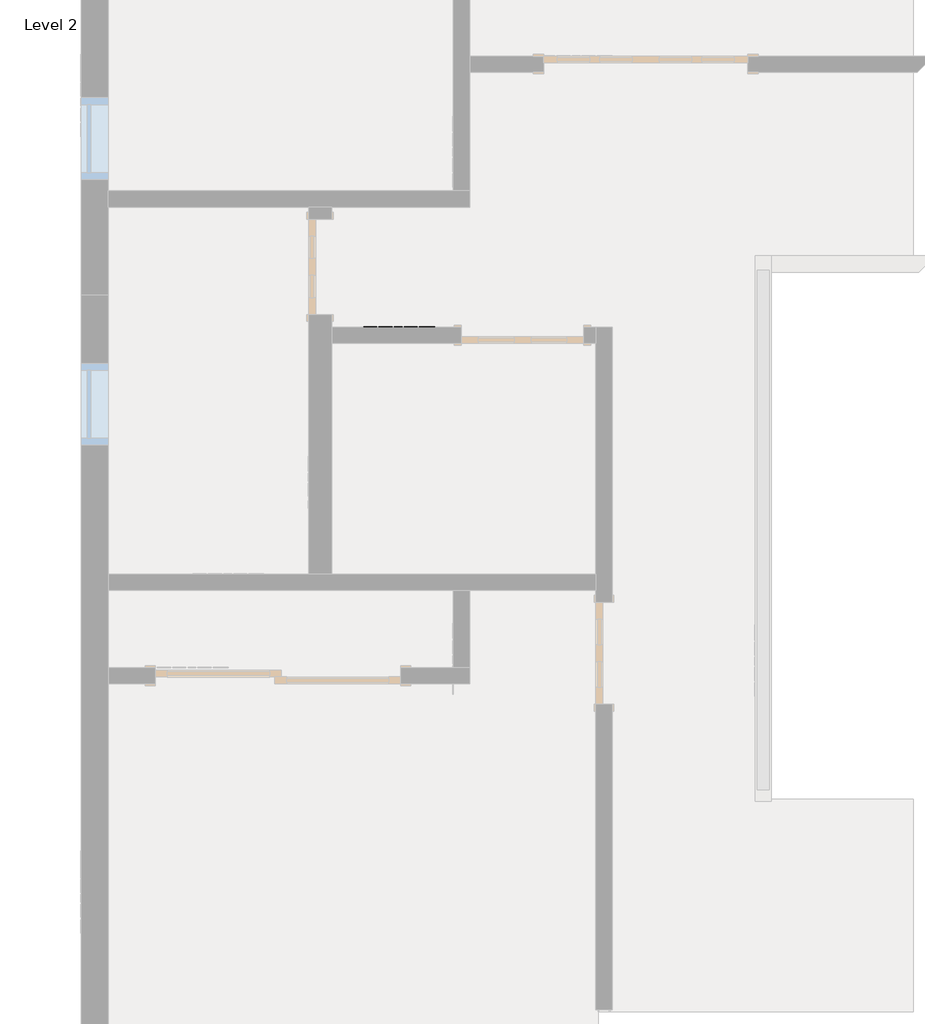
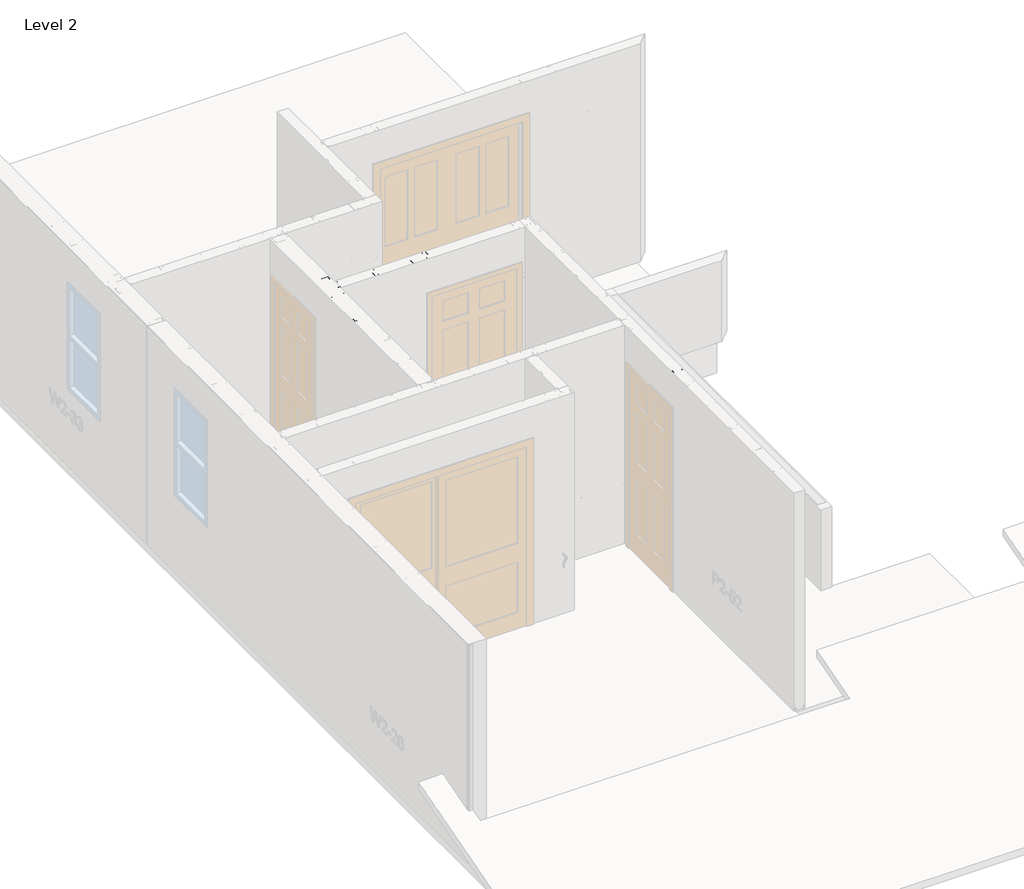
# One storey, part 12 of 46: 8 columns, 1 beam, 1 fastener.
"""IFC4 building model written with IfcOpenShell, lengths in millimetres."""

from ifc_helpers import new_model, si_unit, point, frame, origin, place, context, project, spatial, circle_curve, ellipse_curve, trimmed, transform, mapped, element, save
from ifc_brep_helpers import plane_surface, extruded_surface, advanced_brep
from components import beam_350nf150_33_666b6313, column_350nf150_33_a93e9d8a, panellabel_fa982ee3

model = new_model("IFC4")

# Units and contexts
model_context = context("Model", 3, world=origin())
ifc_project = project(units=[si_unit("LENGTHUNIT", "METRE", prefix="MILLI")], contexts=[model_context])

# Site, building, storey
site = spatial("IfcSite", under=ifc_project)
building = spatial("IfcBuilding", under=site)
storey = spatial("IfcBuildingStorey", under=building, Name="Level 2", Elevation=3060.7)

# Beam
placement = place(None, origin())
beam_350nf150_33_shape = beam_350nf150_33_666b6313(model_context)
element("IfcBeam", 1, ObjectType="BIMSF-SSMA-S : 350NF150-33", at=placement, inside=storey, context=model_context, shape_type="MappedRepresentation", body=[
    mapped(beam_350nf150_33_shape, transform((-12966.0350849, 7610.602221, 3076.575), x_axis=(1.0000000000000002, 0.0, 0.0), y_axis=(0.0, 0.0, -1.0000000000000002), z_axis=(0.0, 1.0000000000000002, 0.0))),
])

# Columns
element("IfcColumn", 2, ObjectType="BIMSF-SSMA-S-Column : 350NF150-33", at=placement, inside=storey, context=model_context, shape_type="AdvancedBrep", body=[
    advanced_brep(
    [(-13457.3663349, 7566.152221, 3061.5929687), (-13457.3663349, 7655.052221, 3061.5929687), (-13419.2663349, 7655.052221, 3061.5929687), (-13419.2663349, 7649.3947052, 3061.5929687), (-13420.1486507, 7649.3947052, 3061.5929687), (-13420.1486507, 7654.1699052, 3061.5929687), (-13456.4840191, 7654.1699052, 3061.5929687), (-13456.4840191, 7567.0345367, 3061.5929687), (-13420.1486507, 7567.0345367, 3061.5929687), (-13420.1486507, 7571.8097367, 3061.5929687), (-13419.2663349, 7571.8097367, 3061.5929687), (-13419.2663349, 7566.152221, 3061.5929687), (-13457.3663349, 7566.152221, 5523.6070313), (-13457.3663349, 7655.052221, 5523.6070313), (-13457.3663349, 7623.302221, 3671.1929688), (-13457.3663349, 7597.902221, 3671.1929688), (-13457.3663349, 7623.302221, 4890.3929687), (-13457.3663349, 7597.902221, 4890.3929687), (-13419.2663349, 7655.052221, 5523.6070313), (-13419.2663349, 7649.3947052, 5523.6070313), (-13420.1486507, 7649.3947052, 5523.6070313), (-13420.1486507, 7654.1699052, 5523.6070313), (-13456.4840191, 7654.1699052, 5523.6070313), (-13456.4840191, 7567.0345367, 5523.6070313), (-13456.4840191, 7597.902221, 3671.1929688), (-13456.4840191, 7623.302221, 3671.1929688), (-13456.4840191, 7597.902221, 4890.3929687), (-13456.4840191, 7623.302221, 4890.3929687), (-13420.1486507, 7567.0345367, 5523.6070313), (-13420.1486507, 7571.8097367, 5523.6070313), (-13419.2663349, 7571.8097367, 5523.6070313), (-13419.2663349, 7566.152221, 5523.6070313)],
    [
        (0, 1),
        (1, 2),
        (2, 3),
        (3, 4),
        (4, 5),
        (5, 6),
        (6, 7),
        (7, 8),
        (8, 9),
        (9, 10),
        (10, 11),
        (11, 0),
        (0, 12),
        (12, 13),
        (13, 1),
        (14, 15, circle_curve(frame((-13457.3663349, 7610.602221, 3671.1929687), z_axis=(1.0, 0.0, 0.0), x_axis=(0.0, 1.0, 0.0)), 12.7)),
        (15, 14, circle_curve(frame((-13457.3663349, 7610.602221, 3671.1929687), z_axis=(1.0, 0.0, 0.0), x_axis=(0.0, 1.0, 0.0)), 12.7)),
        (16, 17, circle_curve(frame((-13457.3663349, 7610.602221, 4890.3929687), z_axis=(1.0, 0.0, 0.0), x_axis=(0.0, 1.0, 0.0)), 12.7)),
        (17, 16, circle_curve(frame((-13457.3663349, 7610.602221, 4890.3929687), z_axis=(1.0, 0.0, 0.0), x_axis=(0.0, 1.0, 0.0)), 12.7)),
        (13, 18),
        (18, 2),
        (18, 19),
        (19, 3),
        (19, 20),
        (20, 4),
        (20, 21),
        (21, 5),
        (21, 22),
        (22, 6),
        (22, 23),
        (23, 7),
        (24, 25, circle_curve(frame((-13456.4840191, 7610.602221, 3671.1929688), z_axis=(-1.0, 0.0, 0.0), x_axis=(0.0, 1.0, 0.0)), 12.7)),
        (25, 24, circle_curve(frame((-13456.4840191, 7610.602221, 3671.1929688), z_axis=(-1.0, 0.0, 0.0), x_axis=(0.0, 1.0, 0.0)), 12.7)),
        (26, 27, circle_curve(frame((-13456.4840191, 7610.602221, 4890.3929687), z_axis=(-1.0, 0.0, 0.0), x_axis=(0.0, 1.0, 0.0)), 12.7)),
        (27, 26, circle_curve(frame((-13456.4840191, 7610.602221, 4890.3929687), z_axis=(-1.0, 0.0, 0.0), x_axis=(0.0, 1.0, 0.0)), 12.7)),
        (23, 28),
        (28, 8),
        (28, 29),
        (29, 9),
        (29, 30),
        (30, 10),
        (30, 31),
        (31, 11),
        (31, 12),
        (24, 15),
        (14, 25),
        (26, 17),
        (16, 27),
    ],
    [
        plane_surface(frame((-13457.3663349, 7566.152221, 3061.5929687), z_axis=(0.0, 0.0, -1.0), x_axis=(-1.0, 0.0, 0.0))),
        plane_surface(frame((-13457.3663349, 7655.052221, 5523.6070313), z_axis=(-1.0, 0.0, 0.0), x_axis=(0.0, 0.0, -1.0))),
        plane_surface(frame((-13419.2663349, 7655.052221, 5523.6070313), z_axis=(0.0, 1.0, 0.0), x_axis=(0.0, 0.0, -1.0))),
        plane_surface(frame((-13419.2663349, 7649.3947052, 5523.6070313), z_axis=(1.0, 0.0, 0.0), x_axis=(0.0, 0.0, -1.0))),
        plane_surface(frame((-13420.1486507, 7649.3947052, 5523.6070313), z_axis=(0.0, -1.0, 0.0), x_axis=(0.0, 0.0, -1.0))),
        plane_surface(frame((-13420.1486507, 7654.1699052, 5523.6070313), z_axis=(-1.0, 0.0, 0.0), x_axis=(0.0, 0.0, -1.0))),
        plane_surface(frame((-13456.4840191, 7654.1699052, 5523.6070313), z_axis=(0.0, -1.0, 0.0), x_axis=(0.0, 0.0, -1.0))),
        plane_surface(frame((-13456.4840191, 7567.0345367, 5523.6070313), z_axis=(1.0, 0.0, 0.0), x_axis=(0.0, 0.0, -1.0))),
        plane_surface(frame((-13420.1486507, 7567.0345367, 5523.6070313), z_axis=(0.0, 1.0, 0.0), x_axis=(0.0, 0.0, -1.0))),
        plane_surface(frame((-13420.1486507, 7571.8097367, 5523.6070313), z_axis=(-1.0, 0.0, 0.0), x_axis=(0.0, 0.0, -1.0))),
        plane_surface(frame((-13419.2663349, 7571.8097367, 5523.6070313), z_axis=(0.0, 1.0, 0.0), x_axis=(0.0, 0.0, -1.0))),
        plane_surface(frame((-13419.2663349, 7566.152221, 5523.6070313), z_axis=(1.0, 0.0, 0.0), x_axis=(0.0, 0.0, -1.0))),
        plane_surface(frame((-13457.3663349, 7566.152221, 5523.6070313), z_axis=(0.0, -1.0, 0.0), x_axis=(0.0, 0.0, -1.0))),
        plane_surface(frame((-13457.3663349, 7566.152221, 5523.6070313), z_axis=(0.0, 0.0, 1.0), x_axis=(1.0, 0.0, 0.0))),
        extruded_surface(trimmed(ellipse_curve(frame((-10976.3022724, 7610.602221, 3671.1929688), z_axis=(-1.0, 0.0, 0.0), x_axis=(0.0, 1.0, 0.0)), 12.7, 12.7), [point((-10976.3022724, 7597.902221, 3671.1929688))], [point((-10976.3022724, 7623.302221, 3671.1929688))], True, "CARTESIAN"), (4924.028125, 0.0, 0.0), 4924.028125),
        extruded_surface(trimmed(ellipse_curve(frame((-10976.3022724, 7610.602221, 3671.1929688), z_axis=(-1.0, 0.0, 0.0), x_axis=(0.0, 1.0, 0.0)), 12.7, 12.7), [point((-10976.3022724, 7623.302221, 3671.1929688))], [point((-10976.3022724, 7597.902221, 3671.1929688))], True, "CARTESIAN"), (4924.028125, 0.0, 0.0), 4924.028125),
        extruded_surface(trimmed(ellipse_curve(frame((-10976.3022724, 7610.602221, 4890.3929687), z_axis=(-1.0, 0.0, 0.0), x_axis=(0.0, 1.0, 0.0)), 12.7, 12.7), [point((-10976.3022724, 7597.902221, 4890.3929687))], [point((-10976.3022724, 7623.302221, 4890.3929687))], True, "CARTESIAN"), (4924.028125, 0.0, 0.0), 4924.028125),
        extruded_surface(trimmed(ellipse_curve(frame((-10976.3022724, 7610.602221, 4890.3929687), z_axis=(-1.0, 0.0, 0.0), x_axis=(0.0, 1.0, 0.0)), 12.7, 12.7), [point((-10976.3022724, 7623.302221, 4890.3929687))], [point((-10976.3022724, 7597.902221, 4890.3929687))], True, "CARTESIAN"), (4924.028125, 0.0, 0.0), 4924.028125),
    ],
    [
        (0, [[1, 2, 3, 4, 5, 6, 7, 8, 9, 10, 11, 12]]),
        (1, [[-1, 13, 14, 15], [16, 17], [18, 19]]),
        (2, [[-2, -15, 20, 21]]),
        (3, [[-3, -21, 22, 23]]),
        (4, [[-4, -23, 24, 25]]),
        (5, [[-5, -25, 26, 27]]),
        (6, [[-6, -27, 28, 29]]),
        (7, [[-7, -29, 30, 31], [32, 33], [34, 35]]),
        (8, [[-8, -31, 36, 37]]),
        (9, [[-9, -37, 38, 39]]),
        (10, [[-10, -39, 40, 41]]),
        (11, [[-11, -41, 42, 43]]),
        (12, [[-12, -43, 44, -13]]),
        (13, [[-14, -44, -42, -40, -38, -36, -30, -28, -26, -24, -22, -20]]),
        (14, [[45, -16, 46, -32]]),
        (15, [[-45, -33, -46, -17]]),
        (16, [[47, -18, 48, -34]]),
        (17, [[-47, -35, -48, -19]]),
    ],
),
])
element("IfcColumn", 3, ObjectType="BIMSF-SSMA-S-Column : 350NF150-33", at=placement, inside=storey, context=model_context, shape_type="AdvancedBrep", body=[
    advanced_brep(
    [(-13070.0163349, 7566.152221, 3061.5929687), (-13070.0163349, 7655.052221, 3061.5929687), (-13031.9163349, 7655.052221, 3061.5929687), (-13031.9163349, 7649.3947052, 3061.5929687), (-13032.7986507, 7649.3947052, 3061.5929687), (-13032.7986507, 7654.1699052, 3061.5929687), (-13069.1340191, 7654.1699052, 3061.5929687), (-13069.1340191, 7567.0345367, 3061.5929687), (-13032.7986507, 7567.0345367, 3061.5929687), (-13032.7986507, 7571.8097367, 3061.5929687), (-13031.9163349, 7571.8097367, 3061.5929687), (-13031.9163349, 7566.152221, 3061.5929687), (-13070.0163349, 7566.152221, 5523.6070313), (-13070.0163349, 7655.052221, 5523.6070313), (-13070.0163349, 7623.302221, 3671.1929688), (-13070.0163349, 7597.902221, 3671.1929688), (-13070.0163349, 7623.302221, 4890.3929687), (-13070.0163349, 7597.902221, 4890.3929687), (-13031.9163349, 7655.052221, 5523.6070313), (-13031.9163349, 7649.3947052, 5523.6070313), (-13032.7986507, 7649.3947052, 5523.6070313), (-13032.7986507, 7654.1699052, 5523.6070313), (-13069.1340191, 7654.1699052, 5523.6070313), (-13069.1340191, 7567.0345367, 5523.6070313), (-13069.1340191, 7597.902221, 3671.1929688), (-13069.1340191, 7623.302221, 3671.1929688), (-13069.1340191, 7597.902221, 4890.3929687), (-13069.1340191, 7623.302221, 4890.3929687), (-13032.7986507, 7567.0345367, 5523.6070313), (-13032.7986507, 7571.8097367, 5523.6070313), (-13031.9163349, 7571.8097367, 5523.6070313), (-13031.9163349, 7566.152221, 5523.6070313)],
    [
        (0, 1),
        (1, 2),
        (2, 3),
        (3, 4),
        (4, 5),
        (5, 6),
        (6, 7),
        (7, 8),
        (8, 9),
        (9, 10),
        (10, 11),
        (11, 0),
        (0, 12),
        (12, 13),
        (13, 1),
        (14, 15, circle_curve(frame((-13070.0163349, 7610.602221, 3671.1929688), z_axis=(1.0, 0.0, 0.0), x_axis=(0.0, 1.0, 0.0)), 12.7)),
        (15, 14, circle_curve(frame((-13070.0163349, 7610.602221, 3671.1929688), z_axis=(1.0, 0.0, 0.0), x_axis=(0.0, 1.0, 0.0)), 12.7)),
        (16, 17, circle_curve(frame((-13070.0163349, 7610.602221, 4890.3929687), z_axis=(1.0, 0.0, 0.0), x_axis=(0.0, 1.0, 0.0)), 12.7)),
        (17, 16, circle_curve(frame((-13070.0163349, 7610.602221, 4890.3929687), z_axis=(1.0, 0.0, 0.0), x_axis=(0.0, 1.0, 0.0)), 12.7)),
        (13, 18),
        (18, 2),
        (18, 19),
        (19, 3),
        (19, 20),
        (20, 4),
        (20, 21),
        (21, 5),
        (21, 22),
        (22, 6),
        (22, 23),
        (23, 7),
        (24, 25, circle_curve(frame((-13069.1340191, 7610.602221, 3671.1929688), z_axis=(-1.0, 0.0, 0.0), x_axis=(0.0, 1.0, 0.0)), 12.7)),
        (25, 24, circle_curve(frame((-13069.1340191, 7610.602221, 3671.1929688), z_axis=(-1.0, 0.0, 0.0), x_axis=(0.0, 1.0, 0.0)), 12.7)),
        (26, 27, circle_curve(frame((-13069.1340191, 7610.602221, 4890.3929687), z_axis=(-1.0, 0.0, 0.0), x_axis=(0.0, 1.0, 0.0)), 12.7)),
        (27, 26, circle_curve(frame((-13069.1340191, 7610.602221, 4890.3929687), z_axis=(-1.0, 0.0, 0.0), x_axis=(0.0, 1.0, 0.0)), 12.7)),
        (23, 28),
        (28, 8),
        (28, 29),
        (29, 9),
        (29, 30),
        (30, 10),
        (30, 31),
        (31, 11),
        (31, 12),
        (24, 15),
        (14, 25),
        (26, 17),
        (16, 27),
    ],
    [
        plane_surface(frame((-13070.0163349, 7566.152221, 3061.5929687), z_axis=(0.0, 0.0, -1.0), x_axis=(-1.0, 0.0, 0.0))),
        plane_surface(frame((-13070.0163349, 7655.052221, 5523.6070313), z_axis=(-1.0, 0.0, 0.0), x_axis=(0.0, 0.0, -1.0))),
        plane_surface(frame((-13031.9163349, 7655.052221, 5523.6070313), z_axis=(0.0, 1.0, 0.0), x_axis=(0.0, 0.0, -1.0))),
        plane_surface(frame((-13031.9163349, 7649.3947052, 5523.6070313), z_axis=(1.0, 0.0, 0.0), x_axis=(0.0, 0.0, -1.0))),
        plane_surface(frame((-13032.7986507, 7649.3947052, 5523.6070313), z_axis=(0.0, -1.0, 0.0), x_axis=(0.0, 0.0, -1.0))),
        plane_surface(frame((-13032.7986507, 7654.1699052, 5523.6070313), z_axis=(-1.0, 0.0, 0.0), x_axis=(0.0, 0.0, -1.0))),
        plane_surface(frame((-13069.1340191, 7654.1699052, 5523.6070313), z_axis=(0.0, -1.0, 0.0), x_axis=(0.0, 0.0, -1.0))),
        plane_surface(frame((-13069.1340191, 7567.0345367, 5523.6070313), z_axis=(1.0, 0.0, 0.0), x_axis=(0.0, 0.0, -1.0))),
        plane_surface(frame((-13032.7986507, 7567.0345367, 5523.6070313), z_axis=(0.0, 1.0, 0.0), x_axis=(0.0, 0.0, -1.0))),
        plane_surface(frame((-13032.7986507, 7571.8097367, 5523.6070313), z_axis=(-1.0, 0.0, 0.0), x_axis=(0.0, 0.0, -1.0))),
        plane_surface(frame((-13031.9163349, 7571.8097367, 5523.6070313), z_axis=(0.0, 1.0, 0.0), x_axis=(0.0, 0.0, -1.0))),
        plane_surface(frame((-13031.9163349, 7566.152221, 5523.6070313), z_axis=(1.0, 0.0, 0.0), x_axis=(0.0, 0.0, -1.0))),
        plane_surface(frame((-13070.0163349, 7566.152221, 5523.6070313), z_axis=(0.0, -1.0, 0.0), x_axis=(0.0, 0.0, -1.0))),
        plane_surface(frame((-13070.0163349, 7566.152221, 5523.6070313), z_axis=(0.0, 0.0, 1.0), x_axis=(1.0, 0.0, 0.0))),
        extruded_surface(trimmed(ellipse_curve(frame((-10588.9522724, 7610.602221, 3671.1929688), z_axis=(-1.0, 0.0, 0.0), x_axis=(0.0, 1.0, 0.0)), 12.7, 12.7), [point((-10588.9522724, 7597.902221, 3671.1929688))], [point((-10588.9522724, 7623.302221, 3671.1929688))], True, "CARTESIAN"), (4924.028125, 0.0, 0.0), 4924.028125),
        extruded_surface(trimmed(ellipse_curve(frame((-10588.9522724, 7610.602221, 3671.1929688), z_axis=(-1.0, 0.0, 0.0), x_axis=(0.0, 1.0, 0.0)), 12.7, 12.7), [point((-10588.9522724, 7623.302221, 3671.1929688))], [point((-10588.9522724, 7597.902221, 3671.1929688))], True, "CARTESIAN"), (4924.028125, 0.0, 0.0), 4924.028125),
        extruded_surface(trimmed(ellipse_curve(frame((-10588.9522724, 7610.602221, 4890.3929687), z_axis=(-1.0, 0.0, 0.0), x_axis=(0.0, 1.0, 0.0)), 12.7, 12.7), [point((-10588.9522724, 7597.902221, 4890.3929687))], [point((-10588.9522724, 7623.302221, 4890.3929687))], True, "CARTESIAN"), (4924.028125, 0.0, 0.0), 4924.028125),
        extruded_surface(trimmed(ellipse_curve(frame((-10588.9522724, 7610.602221, 4890.3929687), z_axis=(-1.0, 0.0, 0.0), x_axis=(0.0, 1.0, 0.0)), 12.7, 12.7), [point((-10588.9522724, 7623.302221, 4890.3929687))], [point((-10588.9522724, 7597.902221, 4890.3929687))], True, "CARTESIAN"), (4924.028125, 0.0, 0.0), 4924.028125),
    ],
    [
        (0, [[1, 2, 3, 4, 5, 6, 7, 8, 9, 10, 11, 12]]),
        (1, [[-1, 13, 14, 15], [16, 17], [18, 19]]),
        (2, [[-2, -15, 20, 21]]),
        (3, [[-3, -21, 22, 23]]),
        (4, [[-4, -23, 24, 25]]),
        (5, [[-5, -25, 26, 27]]),
        (6, [[-6, -27, 28, 29]]),
        (7, [[-7, -29, 30, 31], [32, 33], [34, 35]]),
        (8, [[-8, -31, 36, 37]]),
        (9, [[-9, -37, 38, 39]]),
        (10, [[-10, -39, 40, 41]]),
        (11, [[-11, -41, 42, 43]]),
        (12, [[-12, -43, 44, -13]]),
        (13, [[-14, -44, -42, -40, -38, -36, -30, -28, -26, -24, -22, -20]]),
        (14, [[45, -16, 46, -32]]),
        (15, [[-45, -33, -46, -17]]),
        (16, [[47, -18, 48, -34]]),
        (17, [[-47, -35, -48, -19]]),
    ],
),
])
element("IfcColumn", 4, ObjectType="BIMSF-SSMA-S-Column : 350NF150-33", at=placement, inside=storey, context=model_context, shape_type="AdvancedBrep", body=[
    advanced_brep(
    [(-12663.6163349, 7566.152221, 3061.5929687), (-12663.6163349, 7655.052221, 3061.5929687), (-12625.5163349, 7655.052221, 3061.5929687), (-12625.5163349, 7649.3947052, 3061.5929687), (-12626.3986507, 7649.3947052, 3061.5929687), (-12626.3986507, 7654.1699052, 3061.5929687), (-12662.7340191, 7654.1699052, 3061.5929687), (-12662.7340191, 7567.0345367, 3061.5929687), (-12626.3986507, 7567.0345367, 3061.5929687), (-12626.3986507, 7571.8097367, 3061.5929687), (-12625.5163349, 7571.8097367, 3061.5929687), (-12625.5163349, 7566.152221, 3061.5929687), (-12663.6163349, 7566.152221, 5523.6070313), (-12663.6163349, 7655.052221, 5523.6070313), (-12663.6163349, 7623.302221, 3671.1929688), (-12663.6163349, 7597.902221, 3671.1929688), (-12663.6163349, 7623.302221, 4890.3929687), (-12663.6163349, 7597.902221, 4890.3929687), (-12625.5163349, 7655.052221, 5523.6070313), (-12625.5163349, 7649.3947052, 5523.6070313), (-12626.3986507, 7649.3947052, 5523.6070313), (-12626.3986507, 7654.1699052, 5523.6070313), (-12662.7340191, 7654.1699052, 5523.6070313), (-12662.7340191, 7567.0345367, 5523.6070313), (-12662.7340191, 7597.902221, 3671.1929688), (-12662.7340191, 7623.302221, 3671.1929688), (-12662.7340191, 7597.902221, 4890.3929687), (-12662.7340191, 7623.302221, 4890.3929687), (-12626.3986507, 7567.0345367, 5523.6070313), (-12626.3986507, 7571.8097367, 5523.6070313), (-12625.5163349, 7571.8097367, 5523.6070313), (-12625.5163349, 7566.152221, 5523.6070313)],
    [
        (0, 1),
        (1, 2),
        (2, 3),
        (3, 4),
        (4, 5),
        (5, 6),
        (6, 7),
        (7, 8),
        (8, 9),
        (9, 10),
        (10, 11),
        (11, 0),
        (0, 12),
        (12, 13),
        (13, 1),
        (14, 15, circle_curve(frame((-12663.6163349, 7610.602221, 3671.1929688), z_axis=(1.0, 0.0, 0.0), x_axis=(0.0, 1.0, 0.0)), 12.7)),
        (15, 14, circle_curve(frame((-12663.6163349, 7610.602221, 3671.1929688), z_axis=(1.0, 0.0, 0.0), x_axis=(0.0, 1.0, 0.0)), 12.7)),
        (16, 17, circle_curve(frame((-12663.6163349, 7610.602221, 4890.3929687), z_axis=(1.0, 0.0, 0.0), x_axis=(0.0, 1.0, 0.0)), 12.7)),
        (17, 16, circle_curve(frame((-12663.6163349, 7610.602221, 4890.3929687), z_axis=(1.0, 0.0, 0.0), x_axis=(0.0, 1.0, 0.0)), 12.7)),
        (13, 18),
        (18, 2),
        (18, 19),
        (19, 3),
        (19, 20),
        (20, 4),
        (20, 21),
        (21, 5),
        (21, 22),
        (22, 6),
        (22, 23),
        (23, 7),
        (24, 25, circle_curve(frame((-12662.7340191, 7610.602221, 3671.1929688), z_axis=(-1.0, 0.0, 0.0), x_axis=(0.0, 1.0, 0.0)), 12.7)),
        (25, 24, circle_curve(frame((-12662.7340191, 7610.602221, 3671.1929688), z_axis=(-1.0, 0.0, 0.0), x_axis=(0.0, 1.0, 0.0)), 12.7)),
        (26, 27, circle_curve(frame((-12662.7340191, 7610.602221, 4890.3929687), z_axis=(-1.0, 0.0, 0.0), x_axis=(0.0, 1.0, 0.0)), 12.7)),
        (27, 26, circle_curve(frame((-12662.7340191, 7610.602221, 4890.3929687), z_axis=(-1.0, 0.0, 0.0), x_axis=(0.0, 1.0, 0.0)), 12.7)),
        (23, 28),
        (28, 8),
        (28, 29),
        (29, 9),
        (29, 30),
        (30, 10),
        (30, 31),
        (31, 11),
        (31, 12),
        (24, 15),
        (14, 25),
        (26, 17),
        (16, 27),
    ],
    [
        plane_surface(frame((-12663.6163349, 7566.152221, 3061.5929687), z_axis=(0.0, 0.0, -1.0), x_axis=(-1.0, 0.0, 0.0))),
        plane_surface(frame((-12663.6163349, 7655.052221, 5523.6070313), z_axis=(-1.0, 0.0, 0.0), x_axis=(0.0, 0.0, -1.0))),
        plane_surface(frame((-12625.5163349, 7655.052221, 5523.6070313), z_axis=(0.0, 1.0, 0.0), x_axis=(0.0, 0.0, -1.0))),
        plane_surface(frame((-12625.5163349, 7649.3947052, 5523.6070313), z_axis=(1.0, 0.0, 0.0), x_axis=(0.0, 0.0, -1.0))),
        plane_surface(frame((-12626.3986507, 7649.3947052, 5523.6070313), z_axis=(0.0, -1.0, 0.0), x_axis=(0.0, 0.0, -1.0))),
        plane_surface(frame((-12626.3986507, 7654.1699052, 5523.6070313), z_axis=(-1.0, 0.0, 0.0), x_axis=(0.0, 0.0, -1.0))),
        plane_surface(frame((-12662.7340191, 7654.1699052, 5523.6070313), z_axis=(0.0, -1.0, 0.0), x_axis=(0.0, 0.0, -1.0))),
        plane_surface(frame((-12662.7340191, 7567.0345367, 5523.6070313), z_axis=(1.0, 0.0, 0.0), x_axis=(0.0, 0.0, -1.0))),
        plane_surface(frame((-12626.3986507, 7567.0345367, 5523.6070313), z_axis=(0.0, 1.0, 0.0), x_axis=(0.0, 0.0, -1.0))),
        plane_surface(frame((-12626.3986507, 7571.8097367, 5523.6070313), z_axis=(-1.0, 0.0, 0.0), x_axis=(0.0, 0.0, -1.0))),
        plane_surface(frame((-12625.5163349, 7571.8097367, 5523.6070313), z_axis=(0.0, 1.0, 0.0), x_axis=(0.0, 0.0, -1.0))),
        plane_surface(frame((-12625.5163349, 7566.152221, 5523.6070313), z_axis=(1.0, 0.0, 0.0), x_axis=(0.0, 0.0, -1.0))),
        plane_surface(frame((-12663.6163349, 7566.152221, 5523.6070313), z_axis=(0.0, -1.0, 0.0), x_axis=(0.0, 0.0, -1.0))),
        plane_surface(frame((-12663.6163349, 7566.152221, 5523.6070313), z_axis=(0.0, 0.0, 1.0), x_axis=(1.0, 0.0, 0.0))),
        extruded_surface(trimmed(ellipse_curve(frame((-10182.5522724, 7610.602221, 3671.1929688), z_axis=(-1.0, 0.0, 0.0), x_axis=(0.0, 1.0, 0.0)), 12.7, 12.7), [point((-10182.5522724, 7597.902221, 3671.1929688))], [point((-10182.5522724, 7623.302221, 3671.1929688))], True, "CARTESIAN"), (4924.028125, 0.0, 0.0), 4924.028125),
        extruded_surface(trimmed(ellipse_curve(frame((-10182.5522724, 7610.602221, 3671.1929688), z_axis=(-1.0, 0.0, 0.0), x_axis=(0.0, 1.0, 0.0)), 12.7, 12.7), [point((-10182.5522724, 7623.302221, 3671.1929688))], [point((-10182.5522724, 7597.902221, 3671.1929688))], True, "CARTESIAN"), (4924.028125, 0.0, 0.0), 4924.028125),
        extruded_surface(trimmed(ellipse_curve(frame((-10182.5522724, 7610.602221, 4890.3929687), z_axis=(-1.0, 0.0, 0.0), x_axis=(0.0, 1.0, 0.0)), 12.7, 12.7), [point((-10182.5522724, 7597.902221, 4890.3929687))], [point((-10182.5522724, 7623.302221, 4890.3929687))], True, "CARTESIAN"), (4924.028125, 0.0, 0.0), 4924.028125),
        extruded_surface(trimmed(ellipse_curve(frame((-10182.5522724, 7610.602221, 4890.3929687), z_axis=(-1.0, 0.0, 0.0), x_axis=(0.0, 1.0, 0.0)), 12.7, 12.7), [point((-10182.5522724, 7623.302221, 4890.3929687))], [point((-10182.5522724, 7597.902221, 4890.3929687))], True, "CARTESIAN"), (4924.028125, 0.0, 0.0), 4924.028125),
    ],
    [
        (0, [[1, 2, 3, 4, 5, 6, 7, 8, 9, 10, 11, 12]]),
        (1, [[-1, 13, 14, 15], [16, 17], [18, 19]]),
        (2, [[-2, -15, 20, 21]]),
        (3, [[-3, -21, 22, 23]]),
        (4, [[-4, -23, 24, 25]]),
        (5, [[-5, -25, 26, 27]]),
        (6, [[-6, -27, 28, 29]]),
        (7, [[-7, -29, 30, 31], [32, 33], [34, 35]]),
        (8, [[-8, -31, 36, 37]]),
        (9, [[-9, -37, 38, 39]]),
        (10, [[-10, -39, 40, 41]]),
        (11, [[-11, -41, 42, 43]]),
        (12, [[-12, -43, 44, -13]]),
        (13, [[-14, -44, -42, -40, -38, -36, -30, -28, -26, -24, -22, -20]]),
        (14, [[45, -16, 46, -32]]),
        (15, [[-45, -33, -46, -17]]),
        (16, [[47, -18, 48, -34]]),
        (17, [[-47, -35, -48, -19]]),
    ],
),
])
column_350nf150_33_shape = column_350nf150_33_a93e9d8a(model_context)
element("IfcColumn", 5, ObjectType="BIMSF-SSMA-S-Column : 350NF150-33", at=placement, inside=storey, context=model_context, shape_type="MappedRepresentation", body=[
    mapped(column_350nf150_33_shape, transform((-11398.7542099, 4845.8794332, 0.0), x_axis=(0.0, -1.0, 0.0), y_axis=(1.0, 0.0, 0.0), z_axis=(0.0, 0.0, 1.0))),
])
element("IfcColumn", 6, ObjectType="BIMSF-SSMA-S-Column : 350NF150-33", at=placement, inside=storey, context=model_context, shape_type="MappedRepresentation", body=[
    mapped(column_350nf150_33_shape, transform((-12486.7016226, 7599.865096, 0.0), x_axis=(-1.0, 0.0, 0.0), y_axis=(0.0, -1.0, 0.0), z_axis=(0.0, 0.0, 1.0))),
])
element("IfcColumn", 7, ObjectType="BIMSF-SSMA-S-Column : 550NF150-33", at=placement, inside=storey, context=model_context, shape_type="AdvancedBrep", body=[
    advanced_brep(
    [(-13597.0663349, 7764.589721, 3061.5929687), (-13457.3663349, 7764.589721, 3061.5929687), (-13457.3663349, 7726.489721, 3061.5929687), (-13463.0238507, 7726.489721, 3061.5929687), (-13463.0238507, 7727.3720367, 3061.5929687), (-13458.2486507, 7727.3720367, 3061.5929687), (-13458.2486507, 7763.7074052, 3061.5929687), (-13596.1840191, 7763.7074052, 3061.5929687), (-13596.1840191, 7727.3720367, 3061.5929687), (-13591.4088191, 7727.3720367, 3061.5929687), (-13591.4088191, 7726.489721, 3061.5929687), (-13597.0663349, 7726.489721, 3061.5929687), (-13597.0663349, 7764.589721, 5523.6070313), (-13457.3663349, 7764.589721, 5523.6070313), (-13514.5163349, 7764.589721, 3671.1929688), (-13539.9163349, 7764.589721, 3671.1929688), (-13514.5163349, 7764.589721, 4890.3929687), (-13539.9163349, 7764.589721, 4890.3929687), (-13457.3663349, 7726.489721, 5523.6070313), (-13463.0238507, 7726.489721, 5523.6070313), (-13463.0238507, 7727.3720367, 5523.6070313), (-13458.2486507, 7727.3720367, 5523.6070313), (-13458.2486507, 7763.7074052, 5523.6070313), (-13596.1840191, 7763.7074052, 5523.6070313), (-13539.9163349, 7763.7074052, 3671.1929688), (-13514.5163349, 7763.7074052, 3671.1929688), (-13539.9163349, 7763.7074052, 4890.3929687), (-13514.5163349, 7763.7074052, 4890.3929687), (-13596.1840191, 7727.3720367, 5523.6070313), (-13591.4088191, 7727.3720367, 5523.6070313), (-13591.4088191, 7726.489721, 5523.6070313), (-13597.0663349, 7726.489721, 5523.6070313)],
    [
        (0, 1),
        (1, 2),
        (2, 3),
        (3, 4),
        (4, 5),
        (5, 6),
        (6, 7),
        (7, 8),
        (8, 9),
        (9, 10),
        (10, 11),
        (11, 0),
        (0, 12),
        (12, 13),
        (13, 1),
        (14, 15, circle_curve(frame((-13527.2163349, 7764.589721, 3671.1929688), z_axis=(0.0, -1.0, 0.0), x_axis=(1.0, 0.0, 0.0)), 12.7)),
        (15, 14, circle_curve(frame((-13527.2163349, 7764.589721, 3671.1929688), z_axis=(0.0, -1.0, 0.0), x_axis=(1.0, 0.0, 0.0)), 12.7)),
        (16, 17, circle_curve(frame((-13527.2163349, 7764.589721, 4890.3929687), z_axis=(0.0, -1.0, 0.0), x_axis=(1.0, 0.0, 0.0)), 12.7)),
        (17, 16, circle_curve(frame((-13527.2163349, 7764.589721, 4890.3929687), z_axis=(0.0, -1.0, 0.0), x_axis=(1.0, 0.0, 0.0)), 12.7)),
        (13, 18),
        (18, 2),
        (18, 19),
        (19, 3),
        (19, 20),
        (20, 4),
        (20, 21),
        (21, 5),
        (21, 22),
        (22, 6),
        (22, 23),
        (23, 7),
        (24, 25, circle_curve(frame((-13527.2163349, 7763.7074052, 3671.1929688), z_axis=(0.0, 1.0, 0.0), x_axis=(1.0, 0.0, 0.0)), 12.7)),
        (25, 24, circle_curve(frame((-13527.2163349, 7763.7074052, 3671.1929688), z_axis=(0.0, 1.0, 0.0), x_axis=(1.0, 0.0, 0.0)), 12.7)),
        (26, 27, circle_curve(frame((-13527.2163349, 7763.7074052, 4890.3929687), z_axis=(0.0, 1.0, 0.0), x_axis=(1.0, 0.0, 0.0)), 12.7)),
        (27, 26, circle_curve(frame((-13527.2163349, 7763.7074052, 4890.3929687), z_axis=(0.0, 1.0, 0.0), x_axis=(1.0, 0.0, 0.0)), 12.7)),
        (23, 28),
        (28, 8),
        (28, 29),
        (29, 9),
        (29, 30),
        (30, 10),
        (30, 31),
        (31, 11),
        (31, 12),
        (24, 15),
        (14, 25),
        (26, 17),
        (16, 27),
    ],
    [
        plane_surface(frame((-13597.0663349, 7764.589721, 3061.5929687), z_axis=(0.0, 0.0, -1.0), x_axis=(0.0, 1.0, 0.0))),
        plane_surface(frame((-13457.3663349, 7764.589721, 5523.6070313), z_axis=(0.0, 1.0, 0.0), x_axis=(0.0, 0.0, -1.0))),
        plane_surface(frame((-13457.3663349, 7726.489721, 5523.6070313), z_axis=(1.0, 0.0, 0.0), x_axis=(0.0, 0.0, -1.0))),
        plane_surface(frame((-13463.0238507, 7726.489721, 5523.6070313), z_axis=(0.0, -1.0, 0.0), x_axis=(0.0, 0.0, -1.0))),
        plane_surface(frame((-13463.0238507, 7727.3720367, 5523.6070313), z_axis=(-1.0, 0.0, 0.0), x_axis=(0.0, 0.0, -1.0))),
        plane_surface(frame((-13458.2486507, 7727.3720367, 5523.6070313), z_axis=(0.0, 1.0, 0.0), x_axis=(0.0, 0.0, -1.0))),
        plane_surface(frame((-13458.2486507, 7763.7074052, 5523.6070313), z_axis=(-1.0, 0.0, 0.0), x_axis=(0.0, 0.0, -1.0))),
        plane_surface(frame((-13596.1840191, 7763.7074052, 5523.6070313), z_axis=(0.0, -1.0, 0.0), x_axis=(0.0, 0.0, -1.0))),
        plane_surface(frame((-13596.1840191, 7727.3720367, 5523.6070313), z_axis=(1.0, 0.0, 0.0), x_axis=(0.0, 0.0, -1.0))),
        plane_surface(frame((-13591.4088191, 7727.3720367, 5523.6070313), z_axis=(0.0, 1.0, 0.0), x_axis=(0.0, 0.0, -1.0))),
        plane_surface(frame((-13591.4088191, 7726.489721, 5523.6070313), z_axis=(1.0, 0.0, 0.0), x_axis=(0.0, 0.0, -1.0))),
        plane_surface(frame((-13597.0663349, 7726.489721, 5523.6070313), z_axis=(0.0, -1.0, 0.0), x_axis=(0.0, 0.0, -1.0))),
        plane_surface(frame((-13597.0663349, 7764.589721, 5523.6070313), z_axis=(-1.0, 0.0, 0.0), x_axis=(0.0, 0.0, -1.0))),
        plane_surface(frame((-13597.0663349, 7764.589721, 5523.6070313), z_axis=(0.0, 0.0, 1.0), x_axis=(0.0, -1.0, 0.0))),
        extruded_surface(trimmed(ellipse_curve(frame((-13527.2163349, 5283.5256585, 3671.1929688), z_axis=(0.0, 1.0, 0.0), x_axis=(1.0, 0.0, 0.0)), 12.7, 12.7), [point((-13539.9163349, 5283.5256585, 3671.1929688))], [point((-13514.5163349, 5283.5256585, 3671.1929688))], True, "CARTESIAN"), (0.0, -4924.028125, 0.0), 4924.028125),
        extruded_surface(trimmed(ellipse_curve(frame((-13527.2163349, 5283.5256585, 3671.1929688), z_axis=(0.0, 1.0, 0.0), x_axis=(1.0, 0.0, 0.0)), 12.7, 12.7), [point((-13514.5163349, 5283.5256585, 3671.1929688))], [point((-13539.9163349, 5283.5256585, 3671.1929688))], True, "CARTESIAN"), (0.0, -4924.028125, 0.0), 4924.028125),
        extruded_surface(trimmed(ellipse_curve(frame((-13527.2163349, 5283.5256585, 4890.3929687), z_axis=(0.0, 1.0, 0.0), x_axis=(1.0, 0.0, 0.0)), 12.7, 12.7), [point((-13539.9163349, 5283.5256585, 4890.3929687))], [point((-13514.5163349, 5283.5256585, 4890.3929687))], True, "CARTESIAN"), (0.0, -4924.028125, 0.0), 4924.028125),
        extruded_surface(trimmed(ellipse_curve(frame((-13527.2163349, 5283.5256585, 4890.3929687), z_axis=(0.0, 1.0, 0.0), x_axis=(1.0, 0.0, 0.0)), 12.7, 12.7), [point((-13514.5163349, 5283.5256585, 4890.3929687))], [point((-13539.9163349, 5283.5256585, 4890.3929687))], True, "CARTESIAN"), (0.0, -4924.028125, 0.0), 4924.028125),
    ],
    [
        (0, [[1, 2, 3, 4, 5, 6, 7, 8, 9, 10, 11, 12]]),
        (1, [[-1, 13, 14, 15], [16, 17], [18, 19]]),
        (2, [[-2, -15, 20, 21]]),
        (3, [[-3, -21, 22, 23]]),
        (4, [[-4, -23, 24, 25]]),
        (5, [[-5, -25, 26, 27]]),
        (6, [[-6, -27, 28, 29]]),
        (7, [[-7, -29, 30, 31], [32, 33], [34, 35]]),
        (8, [[-8, -31, 36, 37]]),
        (9, [[-9, -37, 38, 39]]),
        (10, [[-10, -39, 40, 41]]),
        (11, [[-11, -41, 42, 43]]),
        (12, [[-12, -43, 44, -13]]),
        (13, [[-14, -44, -42, -40, -38, -36, -30, -28, -26, -24, -22, -20]]),
        (14, [[45, -16, 46, -32]]),
        (15, [[-45, -33, -46, -17]]),
        (16, [[47, -18, 48, -34]]),
        (17, [[-47, -35, -48, -19]]),
    ],
),
])
element("IfcColumn", 8, ObjectType="BIMSF-SSMA-S-Column : 550NF150-33", at=placement, inside=storey, context=model_context, shape_type="AdvancedBrep", body=[
    advanced_brep(
    [(-13457.3663349, 7013.702221, 3061.5929687), (-13597.0663349, 7013.702221, 3061.5929687), (-13597.0663349, 7051.802221, 3061.5929687), (-13591.4088191, 7051.802221, 3061.5929687), (-13591.4088191, 7050.9199052, 3061.5929687), (-13596.1840191, 7050.9199052, 3061.5929687), (-13596.1840191, 7014.5845367, 3061.5929687), (-13458.2486507, 7014.5845367, 3061.5929687), (-13458.2486507, 7050.9199052, 3061.5929687), (-13463.0238507, 7050.9199052, 3061.5929687), (-13463.0238507, 7051.802221, 3061.5929687), (-13457.3663349, 7051.802221, 3061.5929687), (-13457.3663349, 7013.702221, 5523.6070313), (-13597.0663349, 7013.702221, 5523.6070313), (-13539.9163349, 7013.702221, 3671.1929687), (-13514.5163349, 7013.702221, 3671.1929687), (-13539.9163349, 7013.702221, 4890.3929687), (-13514.5163349, 7013.702221, 4890.3929687), (-13597.0663349, 7051.802221, 5523.6070313), (-13591.4088191, 7051.802221, 5523.6070313), (-13591.4088191, 7050.9199052, 5523.6070313), (-13596.1840191, 7050.9199052, 5523.6070313), (-13596.1840191, 7014.5845367, 5523.6070313), (-13458.2486507, 7014.5845367, 5523.6070313), (-13514.5163349, 7014.5845367, 3671.1929688), (-13539.9163349, 7014.5845367, 3671.1929688), (-13514.5163349, 7014.5845367, 4890.3929687), (-13539.9163349, 7014.5845367, 4890.3929687), (-13458.2486507, 7050.9199052, 5523.6070313), (-13463.0238507, 7050.9199052, 5523.6070313), (-13463.0238507, 7051.802221, 5523.6070313), (-13457.3663349, 7051.802221, 5523.6070313)],
    [
        (0, 1),
        (1, 2),
        (2, 3),
        (3, 4),
        (4, 5),
        (5, 6),
        (6, 7),
        (7, 8),
        (8, 9),
        (9, 10),
        (10, 11),
        (11, 0),
        (0, 12),
        (12, 13),
        (13, 1),
        (14, 15, circle_curve(frame((-13527.2163349, 7013.702221, 3671.1929688), z_axis=(0.0, 1.0, 0.0), x_axis=(-1.0, 0.0, 0.0)), 12.7)),
        (15, 14, circle_curve(frame((-13527.2163349, 7013.702221, 3671.1929688), z_axis=(0.0, 1.0, 0.0), x_axis=(-1.0, 0.0, 0.0)), 12.7)),
        (16, 17, circle_curve(frame((-13527.2163349, 7013.702221, 4890.3929687), z_axis=(0.0, 1.0, 0.0), x_axis=(-1.0, 0.0, 0.0)), 12.7)),
        (17, 16, circle_curve(frame((-13527.2163349, 7013.702221, 4890.3929687), z_axis=(0.0, 1.0, 0.0), x_axis=(-1.0, 0.0, 0.0)), 12.7)),
        (13, 18),
        (18, 2),
        (18, 19),
        (19, 3),
        (19, 20),
        (20, 4),
        (20, 21),
        (21, 5),
        (21, 22),
        (22, 6),
        (22, 23),
        (23, 7),
        (24, 25, circle_curve(frame((-13527.2163349, 7014.5845367, 3671.1929687), z_axis=(0.0, -1.0, 0.0), x_axis=(-1.0, 0.0, 0.0)), 12.7)),
        (25, 24, circle_curve(frame((-13527.2163349, 7014.5845367, 3671.1929688), z_axis=(0.0, -1.0, 0.0), x_axis=(-1.0, 0.0, 0.0)), 12.7)),
        (26, 27, circle_curve(frame((-13527.2163349, 7014.5845367, 4890.3929687), z_axis=(0.0, -1.0, 0.0), x_axis=(-1.0, 0.0, 0.0)), 12.7)),
        (27, 26, circle_curve(frame((-13527.2163349, 7014.5845367, 4890.3929687), z_axis=(0.0, -1.0, 0.0), x_axis=(-1.0, 0.0, 0.0)), 12.7)),
        (23, 28),
        (28, 8),
        (28, 29),
        (29, 9),
        (29, 30),
        (30, 10),
        (30, 31),
        (31, 11),
        (31, 12),
        (24, 15),
        (14, 25),
        (26, 17),
        (16, 27),
    ],
    [
        plane_surface(frame((-13457.3663349, 7013.702221, 3061.5929687), z_axis=(0.0, 0.0, -1.0), x_axis=(0.0, -1.0, 0.0))),
        plane_surface(frame((-13597.0663349, 7013.702221, 5523.6070313), z_axis=(0.0, -1.0, 0.0), x_axis=(0.0, 0.0, -1.0))),
        plane_surface(frame((-13597.0663349, 7051.802221, 5523.6070313), z_axis=(-1.0, 0.0, 0.0), x_axis=(0.0, 0.0, -1.0))),
        plane_surface(frame((-13591.4088191, 7051.802221, 5523.6070313), z_axis=(0.0, 1.0, 0.0), x_axis=(0.0, 0.0, -1.0))),
        plane_surface(frame((-13591.4088191, 7050.9199052, 5523.6070313), z_axis=(1.0, 0.0, 0.0), x_axis=(0.0, 0.0, -1.0))),
        plane_surface(frame((-13596.1840191, 7050.9199052, 5523.6070313), z_axis=(0.0, -1.0, 0.0), x_axis=(0.0, 0.0, -1.0))),
        plane_surface(frame((-13596.1840191, 7014.5845367, 5523.6070313), z_axis=(1.0, 0.0, 0.0), x_axis=(0.0, 0.0, -1.0))),
        plane_surface(frame((-13458.2486507, 7014.5845367, 5523.6070313), z_axis=(0.0, 1.0, 0.0), x_axis=(0.0, 0.0, -1.0))),
        plane_surface(frame((-13458.2486507, 7050.9199052, 5523.6070313), z_axis=(-1.0, 0.0, 0.0), x_axis=(0.0, 0.0, -1.0))),
        plane_surface(frame((-13463.0238507, 7050.9199052, 5523.6070313), z_axis=(0.0, -1.0, 0.0), x_axis=(0.0, 0.0, -1.0))),
        plane_surface(frame((-13463.0238507, 7051.802221, 5523.6070313), z_axis=(-1.0, 0.0, 0.0), x_axis=(0.0, 0.0, -1.0))),
        plane_surface(frame((-13457.3663349, 7051.802221, 5523.6070313), z_axis=(0.0, 1.0, 0.0), x_axis=(0.0, 0.0, -1.0))),
        plane_surface(frame((-13457.3663349, 7013.702221, 5523.6070313), z_axis=(1.0, 0.0, 0.0), x_axis=(0.0, 0.0, -1.0))),
        plane_surface(frame((-13457.3663349, 7013.702221, 5523.6070313), z_axis=(0.0, 0.0, 1.0), x_axis=(0.0, 1.0, 0.0))),
        extruded_surface(trimmed(ellipse_curve(frame((-13527.2163349, 9494.7662835, 3671.1929688), z_axis=(0.0, -1.0, 0.0), x_axis=(-1.0, 0.0, 0.0)), 12.7, 12.7), [point((-13514.5163349, 9494.7662835, 3671.1929688))], [point((-13539.9163349, 9494.7662835, 3671.1929688))], True, "CARTESIAN"), (0.0, 4924.028125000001, 0.0), 4924.028125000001),
        extruded_surface(trimmed(ellipse_curve(frame((-13527.2163349, 9494.7662835, 3671.1929688), z_axis=(0.0, -1.0, 0.0), x_axis=(-1.0, 0.0, 0.0)), 12.7, 12.7), [point((-13539.9163349, 9494.7662835, 3671.1929688))], [point((-13514.5163349, 9494.7662835, 3671.1929688))], True, "CARTESIAN"), (0.0, 4924.028125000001, 0.0), 4924.028125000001),
        extruded_surface(trimmed(ellipse_curve(frame((-13527.2163349, 9494.7662835, 4890.3929687), z_axis=(0.0, -1.0, 0.0), x_axis=(-1.0, 0.0, 0.0)), 12.7, 12.7), [point((-13514.5163349, 9494.7662835, 4890.3929687))], [point((-13539.9163349, 9494.7662835, 4890.3929687))], True, "CARTESIAN"), (0.0, 4924.028125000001, 0.0), 4924.028125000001),
        extruded_surface(trimmed(ellipse_curve(frame((-13527.2163349, 9494.7662835, 4890.3929687), z_axis=(0.0, -1.0, 0.0), x_axis=(-1.0, 0.0, 0.0)), 12.7, 12.7), [point((-13539.9163349, 9494.7662835, 4890.3929687))], [point((-13514.5163349, 9494.7662835, 4890.3929687))], True, "CARTESIAN"), (0.0, 4924.028125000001, 0.0), 4924.028125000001),
    ],
    [
        (0, [[1, 2, 3, 4, 5, 6, 7, 8, 9, 10, 11, 12]]),
        (1, [[-1, 13, 14, 15], [16, 17], [18, 19]]),
        (2, [[-2, -15, 20, 21]]),
        (3, [[-3, -21, 22, 23]]),
        (4, [[-4, -23, 24, 25]]),
        (5, [[-5, -25, 26, 27]]),
        (6, [[-6, -27, 28, 29]]),
        (7, [[-7, -29, 30, 31], [32, 33], [34, 35]]),
        (8, [[-8, -31, 36, 37]]),
        (9, [[-9, -37, 38, 39]]),
        (10, [[-10, -39, 40, 41]]),
        (11, [[-11, -41, 42, 43]]),
        (12, [[-12, -43, 44, -13]]),
        (13, [[-14, -44, -42, -40, -38, -36, -30, -28, -26, -24, -22, -20]]),
        (14, [[45, -16, 46, -32]]),
        (15, [[-45, -33, -46, -17]]),
        (16, [[47, -18, 48, -34]]),
        (17, [[-47, -35, -48, -19]]),
    ],
),
])
element("IfcColumn", 9, ObjectType="BIMSF-SSMA-S-Column : 550NF150-33", at=placement, inside=storey, context=model_context, shape_type="AdvancedBrep", body=[
    advanced_brep(
    [(-13457.3663349, 7420.102221, 3061.5929687), (-13597.0663349, 7420.102221, 3061.5929687), (-13597.0663349, 7458.202221, 3061.5929687), (-13591.4088191, 7458.202221, 3061.5929687), (-13591.4088191, 7457.3199052, 3061.5929687), (-13596.1840191, 7457.3199052, 3061.5929687), (-13596.1840191, 7420.9845367, 3061.5929687), (-13458.2486507, 7420.9845367, 3061.5929687), (-13458.2486507, 7457.3199052, 3061.5929687), (-13463.0238507, 7457.3199052, 3061.5929687), (-13463.0238507, 7458.202221, 3061.5929687), (-13457.3663349, 7458.202221, 3061.5929687), (-13457.3663349, 7420.102221, 5523.6070313), (-13597.0663349, 7420.102221, 5523.6070313), (-13539.9163349, 7420.102221, 3671.1929688), (-13514.5163349, 7420.102221, 3671.1929688), (-13539.9163349, 7420.102221, 4890.3929688), (-13514.5163349, 7420.102221, 4890.3929687), (-13597.0663349, 7458.202221, 5523.6070313), (-13591.4088191, 7458.202221, 5523.6070313), (-13591.4088191, 7457.3199052, 5523.6070313), (-13596.1840191, 7457.3199052, 5523.6070313), (-13596.1840191, 7420.9845367, 5523.6070313), (-13458.2486507, 7420.9845367, 5523.6070313), (-13514.5163349, 7420.9845367, 3671.1929688), (-13539.9163349, 7420.9845367, 3671.1929688), (-13514.5163349, 7420.9845367, 4890.3929688), (-13539.9163349, 7420.9845367, 4890.3929688), (-13458.2486507, 7457.3199052, 5523.6070313), (-13463.0238507, 7457.3199052, 5523.6070313), (-13463.0238507, 7458.202221, 5523.6070313), (-13457.3663349, 7458.202221, 5523.6070313)],
    [
        (0, 1),
        (1, 2),
        (2, 3),
        (3, 4),
        (4, 5),
        (5, 6),
        (6, 7),
        (7, 8),
        (8, 9),
        (9, 10),
        (10, 11),
        (11, 0),
        (0, 12),
        (12, 13),
        (13, 1),
        (14, 15, circle_curve(frame((-13527.2163349, 7420.102221, 3671.1929688), z_axis=(0.0, 1.0, 0.0), x_axis=(-1.0, 0.0, 0.0)), 12.7)),
        (15, 14, circle_curve(frame((-13527.2163349, 7420.102221, 3671.1929688), z_axis=(0.0, 1.0, 0.0), x_axis=(-1.0, 0.0, 0.0)), 12.7)),
        (16, 17, circle_curve(frame((-13527.2163349, 7420.102221, 4890.3929687), z_axis=(0.0, 1.0, 0.0), x_axis=(-1.0, 0.0, 0.0)), 12.7)),
        (17, 16, circle_curve(frame((-13527.2163349, 7420.102221, 4890.3929687), z_axis=(0.0, 1.0, 0.0), x_axis=(-1.0, 0.0, 0.0)), 12.7)),
        (13, 18),
        (18, 2),
        (18, 19),
        (19, 3),
        (19, 20),
        (20, 4),
        (20, 21),
        (21, 5),
        (21, 22),
        (22, 6),
        (22, 23),
        (23, 7),
        (24, 25, circle_curve(frame((-13527.2163349, 7420.9845367, 3671.1929687), z_axis=(0.0, -1.0, 0.0), x_axis=(-1.0, 0.0, 0.0)), 12.7)),
        (25, 24, circle_curve(frame((-13527.2163349, 7420.9845367, 3671.1929688), z_axis=(0.0, -1.0, 0.0), x_axis=(-1.0, 0.0, 0.0)), 12.7)),
        (26, 27, circle_curve(frame((-13527.2163349, 7420.9845367, 4890.3929687), z_axis=(0.0, -1.0, 0.0), x_axis=(-1.0, 0.0, 0.0)), 12.7)),
        (27, 26, circle_curve(frame((-13527.2163349, 7420.9845367, 4890.3929687), z_axis=(0.0, -1.0, 0.0), x_axis=(-1.0, 0.0, 0.0)), 12.7)),
        (23, 28),
        (28, 8),
        (28, 29),
        (29, 9),
        (29, 30),
        (30, 10),
        (30, 31),
        (31, 11),
        (31, 12),
        (24, 15),
        (14, 25),
        (26, 17),
        (16, 27),
    ],
    [
        plane_surface(frame((-13457.3663349, 7420.102221, 3061.5929687), z_axis=(0.0, 0.0, -1.0), x_axis=(0.0, -1.0, 0.0))),
        plane_surface(frame((-13597.0663349, 7420.102221, 5523.6070313), z_axis=(0.0, -1.0, 0.0), x_axis=(0.0, 0.0, -1.0))),
        plane_surface(frame((-13597.0663349, 7458.202221, 5523.6070313), z_axis=(-1.0, 0.0, 0.0), x_axis=(0.0, 0.0, -1.0))),
        plane_surface(frame((-13591.4088191, 7458.202221, 5523.6070313), z_axis=(0.0, 1.0, 0.0), x_axis=(0.0, 0.0, -1.0))),
        plane_surface(frame((-13591.4088191, 7457.3199052, 5523.6070313), z_axis=(1.0, 0.0, 0.0), x_axis=(0.0, 0.0, -1.0))),
        plane_surface(frame((-13596.1840191, 7457.3199052, 5523.6070313), z_axis=(0.0, -1.0, 0.0), x_axis=(0.0, 0.0, -1.0))),
        plane_surface(frame((-13596.1840191, 7420.9845367, 5523.6070313), z_axis=(1.0, 0.0, 0.0), x_axis=(0.0, 0.0, -1.0))),
        plane_surface(frame((-13458.2486507, 7420.9845367, 5523.6070313), z_axis=(0.0, 1.0, 0.0), x_axis=(0.0, 0.0, -1.0))),
        plane_surface(frame((-13458.2486507, 7457.3199052, 5523.6070313), z_axis=(-1.0, 0.0, 0.0), x_axis=(0.0, 0.0, -1.0))),
        plane_surface(frame((-13463.0238507, 7457.3199052, 5523.6070313), z_axis=(0.0, -1.0, 0.0), x_axis=(0.0, 0.0, -1.0))),
        plane_surface(frame((-13463.0238507, 7458.202221, 5523.6070313), z_axis=(-1.0, 0.0, 0.0), x_axis=(0.0, 0.0, -1.0))),
        plane_surface(frame((-13457.3663349, 7458.202221, 5523.6070313), z_axis=(0.0, 1.0, 0.0), x_axis=(0.0, 0.0, -1.0))),
        plane_surface(frame((-13457.3663349, 7420.102221, 5523.6070313), z_axis=(1.0, 0.0, 0.0), x_axis=(0.0, 0.0, -1.0))),
        plane_surface(frame((-13457.3663349, 7420.102221, 5523.6070313), z_axis=(0.0, 0.0, 1.0), x_axis=(0.0, 1.0, 0.0))),
        extruded_surface(trimmed(ellipse_curve(frame((-13527.2163349, 9901.1662835, 3671.1929688), z_axis=(0.0, -1.0, 0.0), x_axis=(-1.0, 0.0, 0.0)), 12.7, 12.7), [point((-13514.5163349, 9901.1662835, 3671.1929688))], [point((-13539.9163349, 9901.1662835, 3671.1929688))], True, "CARTESIAN"), (0.0, 4924.028124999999, 0.0), 4924.028124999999),
        extruded_surface(trimmed(ellipse_curve(frame((-13527.2163349, 9901.1662835, 3671.1929688), z_axis=(0.0, -1.0, 0.0), x_axis=(-1.0, 0.0, 0.0)), 12.7, 12.7), [point((-13539.9163349, 9901.1662835, 3671.1929688))], [point((-13514.5163349, 9901.1662835, 3671.1929688))], True, "CARTESIAN"), (0.0, 4924.028124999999, 0.0), 4924.028124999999),
        extruded_surface(trimmed(ellipse_curve(frame((-13527.2163349, 9901.1662835, 4890.3929687), z_axis=(0.0, -1.0, 0.0), x_axis=(-1.0, 0.0, 0.0)), 12.7, 12.7), [point((-13514.5163349, 9901.1662835, 4890.3929687))], [point((-13539.9163349, 9901.1662835, 4890.3929687))], True, "CARTESIAN"), (0.0, 4924.028124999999, 0.0), 4924.028124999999),
        extruded_surface(trimmed(ellipse_curve(frame((-13527.2163349, 9901.1662835, 4890.3929687), z_axis=(0.0, -1.0, 0.0), x_axis=(-1.0, 0.0, 0.0)), 12.7, 12.7), [point((-13539.9163349, 9901.1662835, 4890.3929687))], [point((-13514.5163349, 9901.1662835, 4890.3929687))], True, "CARTESIAN"), (0.0, 4924.028124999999, 0.0), 4924.028124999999),
    ],
    [
        (0, [[1, 2, 3, 4, 5, 6, 7, 8, 9, 10, 11, 12]]),
        (1, [[-1, 13, 14, 15], [16, 17], [18, 19]]),
        (2, [[-2, -15, 20, 21]]),
        (3, [[-3, -21, 22, 23]]),
        (4, [[-4, -23, 24, 25]]),
        (5, [[-5, -25, 26, 27]]),
        (6, [[-6, -27, 28, 29]]),
        (7, [[-7, -29, 30, 31], [32, 33], [34, 35]]),
        (8, [[-8, -31, 36, 37]]),
        (9, [[-9, -37, 38, 39]]),
        (10, [[-10, -39, 40, 41]]),
        (11, [[-11, -41, 42, 43]]),
        (12, [[-12, -43, 44, -13]]),
        (13, [[-14, -44, -42, -40, -38, -36, -30, -28, -26, -24, -22, -20]]),
        (14, [[45, -16, 46, -32]]),
        (15, [[-45, -33, -46, -17]]),
        (16, [[47, -18, 48, -34]]),
        (17, [[-47, -35, -48, -19]]),
    ],
),
])

# Fastener
panellabel_shape = panellabel_fa982ee3(model_context)
element("IfcFastener", 10, ObjectType="PanelLabel : Miranda", at=placement, inside=storey, context=model_context, shape_type="MappedRepresentation", body=[
    mapped(panellabel_shape, transform((-12934.2850849, 7610.602221, 2289.5386234), x_axis=(1.0, 0.0, 0.0), y_axis=(0.0, 1.0, 0.0), z_axis=(0.0, 0.0, 1.0))),
])

save(model, "model.ifc")
